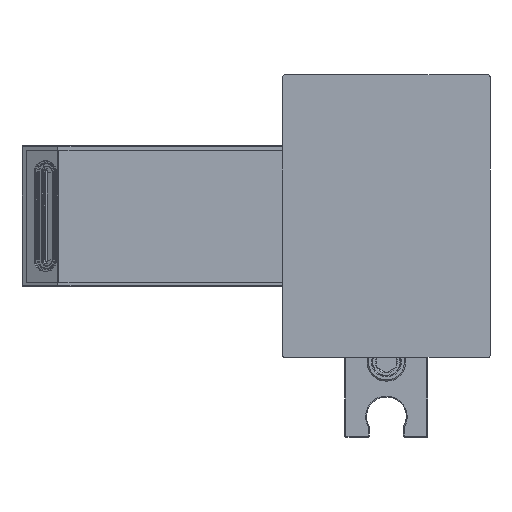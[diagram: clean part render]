
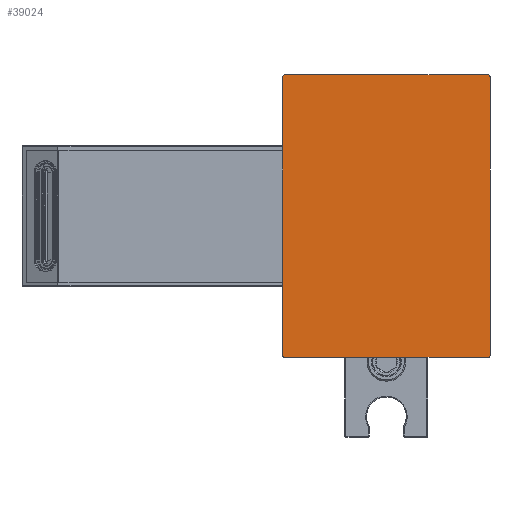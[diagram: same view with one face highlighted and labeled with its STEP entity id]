
A CAD part, front view. The second image highlights one B-rep face of the part: STEP entity #39024.
In plain terms, the highlighted planar face has unit normal (0, -1, 0).
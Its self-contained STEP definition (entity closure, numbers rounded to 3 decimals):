
#38665=CARTESIAN_POINT('',(-74.,0.,-54.));
#38666=DIRECTION('',(0.,-1.,0.));
#38667=DIRECTION('',(-1.,0.,0.));
#38668=AXIS2_PLACEMENT_3D('',#38665,#38666,#38667);
#38670=DIRECTION('',(0.,0.,1.));
#38671=VECTOR('',#38670,108.);
#38672=CARTESIAN_POINT('',(-75.,0.,-54.));
#38673=LINE('',#38672,#38671);
#38674=CARTESIAN_POINT('',(-74.,0.,54.));
#38675=DIRECTION('',(0.,-1.,0.));
#38676=DIRECTION('',(0.,0.,1.));
#38677=AXIS2_PLACEMENT_3D('',#38674,#38675,#38676);
#38679=DIRECTION('',(1.,0.,0.));
#38680=VECTOR('',#38679,148.);
#38681=CARTESIAN_POINT('',(-74.,0.,55.));
#38682=LINE('',#38681,#38680);
#38683=CARTESIAN_POINT('',(74.,0.,54.));
#38684=DIRECTION('',(0.,-1.,0.));
#38685=DIRECTION('',(1.,0.,0.));
#38686=AXIS2_PLACEMENT_3D('',#38683,#38684,#38685);
#38688=DIRECTION('',(0.,0.,-1.));
#38689=VECTOR('',#38688,108.);
#38690=CARTESIAN_POINT('',(75.,0.,54.));
#38691=LINE('',#38690,#38689);
#38692=CARTESIAN_POINT('',(74.,0.,-54.));
#38693=DIRECTION('',(0.,-1.,0.));
#38694=DIRECTION('',(0.,0.,-1.));
#38695=AXIS2_PLACEMENT_3D('',#38692,#38693,#38694);
#38697=DIRECTION('',(-1.,0.,0.));
#38698=VECTOR('',#38697,148.);
#38699=CARTESIAN_POINT('',(74.,0.,-55.));
#38700=LINE('',#38699,#38698);
#38961=CARTESIAN_POINT('',(-75.,0.,-54.));
#38962=CARTESIAN_POINT('',(-74.,0.,-55.));
#38963=VERTEX_POINT('',#38961);
#38964=VERTEX_POINT('',#38962);
#38965=CARTESIAN_POINT('',(75.,0.,54.));
#38966=CARTESIAN_POINT('',(74.,0.,55.));
#38967=VERTEX_POINT('',#38965);
#38968=VERTEX_POINT('',#38966);
#38969=CARTESIAN_POINT('',(74.,0.,-55.));
#38970=CARTESIAN_POINT('',(75.,0.,-54.));
#38971=VERTEX_POINT('',#38969);
#38972=VERTEX_POINT('',#38970);
#38973=CARTESIAN_POINT('',(-74.,0.,55.));
#38974=CARTESIAN_POINT('',(-75.,0.,54.));
#38975=VERTEX_POINT('',#38973);
#38976=VERTEX_POINT('',#38974);
#39001=CARTESIAN_POINT('',(0.,0.,0.));
#39002=DIRECTION('',(0.,1.,0.));
#39003=DIRECTION('',(1.,0.,0.));
#39004=AXIS2_PLACEMENT_3D('',#39001,#39002,#39003);
#39005=PLANE('',#39004);
#39007=ORIENTED_EDGE('',*,*,#39006,.F.);
#39009=ORIENTED_EDGE('',*,*,#39008,.T.);
#39011=ORIENTED_EDGE('',*,*,#39010,.F.);
#39013=ORIENTED_EDGE('',*,*,#39012,.T.);
#39015=ORIENTED_EDGE('',*,*,#39014,.F.);
#39017=ORIENTED_EDGE('',*,*,#39016,.T.);
#39019=ORIENTED_EDGE('',*,*,#39018,.F.);
#39021=ORIENTED_EDGE('',*,*,#39020,.T.);
#39022=EDGE_LOOP('',(#39007,#39009,#39011,#39013,#39015,#39017,#39019,#39021));
#39023=FACE_OUTER_BOUND('',#39022,.F.);
#38669=CIRCLE('',#38668,1.);
#38678=CIRCLE('',#38677,1.);
#38687=CIRCLE('',#38686,1.);
#38696=CIRCLE('',#38695,1.);
#39006=EDGE_CURVE('',#38963,#38964,#38669,.T.);
#39008=EDGE_CURVE('',#38963,#38976,#38673,.T.);
#39010=EDGE_CURVE('',#38975,#38976,#38678,.T.);
#39012=EDGE_CURVE('',#38975,#38968,#38682,.T.);
#39014=EDGE_CURVE('',#38967,#38968,#38687,.T.);
#39016=EDGE_CURVE('',#38967,#38972,#38691,.T.);
#39018=EDGE_CURVE('',#38971,#38972,#38696,.T.);
#39020=EDGE_CURVE('',#38971,#38964,#38700,.T.);
#39024=ADVANCED_FACE('',(#39023),#39005,.F.);
